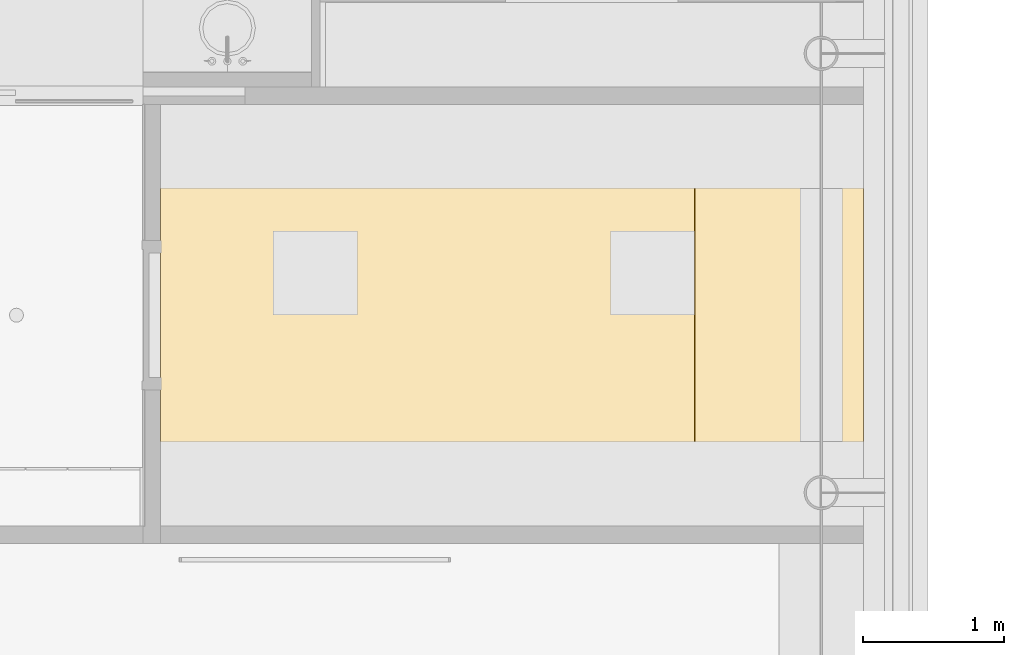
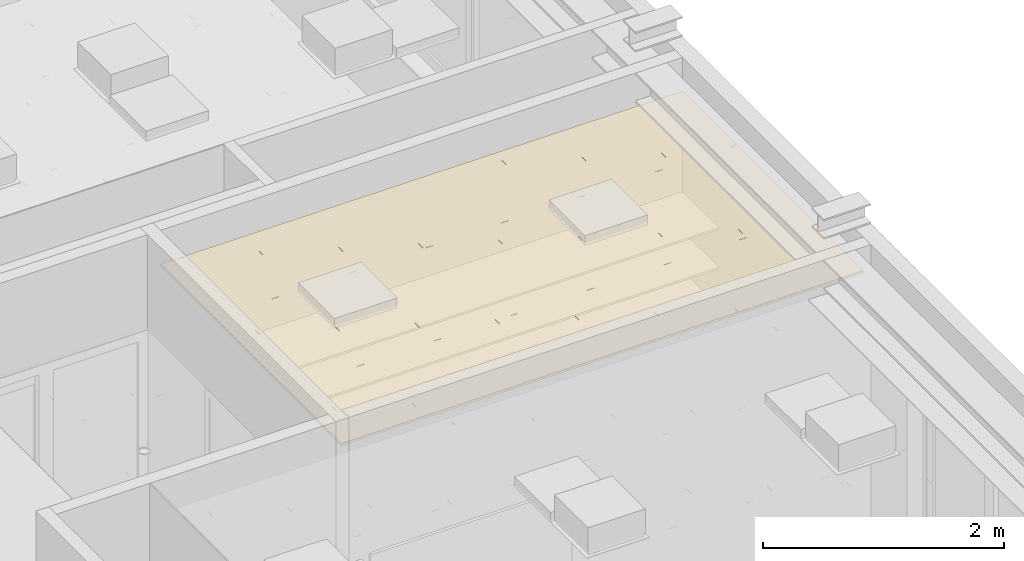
# One storey, part 155 of 347: 1 covering.
"""IFC2X3 building model written with IfcOpenShell, lengths in millimetres."""

from ifc_helpers import new_model, entity, si_unit, converted_unit, derived_unit, money_unit, direction, frame, origin_with_axes, place, context, subcontext, project, spatial, faceted_brep, source, transform, mapped, type_object, type_shapes, element, save


model = new_model("IFC2X3")

# Units and contexts
model_context = context("Model", 3, precision=0.01, world=origin_with_axes(), true_north=direction((0.0, 1.0)))
plan_context = context("Plan", 3, precision=0.01, world=origin_with_axes(), true_north=direction((0.0, 1.0)))
body_context = subcontext(model_context, "Body", "Model", "MODEL_VIEW")
ifc_project = project(units=[si_unit("LENGTHUNIT", "METRE", prefix="MILLI"), si_unit("AREAUNIT", "SQUARE_METRE"), si_unit("VOLUMEUNIT", "CUBIC_METRE"), converted_unit("PLANEANGLEUNIT", "DEGREE", entity("IfcPlaneAngleMeasure", 0.0174532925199), si_unit("PLANEANGLEUNIT", "RADIAN"), dimensions=[0, 0, 0, 0, 0, 0, 0]), money_unit("EUR"), converted_unit("TIMEUNIT", "Year", entity("IfcTimeMeasure", 31556926.0), si_unit("TIMEUNIT", "SECOND"), dimensions=[0, 0, 1, 0, 0, 0, 0]), si_unit("MASSUNIT", "GRAM", prefix="KILO"), si_unit("THERMODYNAMICTEMPERATUREUNIT", "DEGREE_CELSIUS"), si_unit("LUMINOUSINTENSITYUNIT", "LUMEN"), si_unit("ENERGYUNIT", "JOULE", prefix="MEGA"), derived_unit("THERMALCONDUCTANCEUNIT", [(si_unit("POWERUNIT", "WATT"), 1), (si_unit("LENGTHUNIT", "METRE"), -1), (si_unit("THERMODYNAMICTEMPERATUREUNIT", "KELVIN"), -1)]), derived_unit("SPECIFICHEATCAPACITYUNIT", [(si_unit("ENERGYUNIT", "JOULE"), 1), (si_unit("MASSUNIT", "GRAM", prefix="KILO"), -1), (si_unit("THERMODYNAMICTEMPERATUREUNIT", "KELVIN"), -1)]), derived_unit("MASSDENSITYUNIT", [(si_unit("MASSUNIT", "GRAM", prefix="KILO"), 1), (si_unit("VOLUMEUNIT", "CUBIC_METRE"), -1)])], contexts=[model_context, plan_context])

# Site, building, storey
site_placement = place(None, origin_with_axes())
site = spatial("IfcSite", under=ifc_project, at=site_placement, Name="Site", CompositionType="ELEMENT")
building_placement = place(site_placement, origin_with_axes())
building = spatial("IfcBuilding", under=site, at=building_placement, Name="Naam gebouw", CompositionType="ELEMENT")
storey_placement = place(building_placement, origin_with_axes())
storey = spatial("IfcBuildingStorey", under=building, at=storey_placement, Name="begane grond", CompositionType="ELEMENT", Elevation=0.0)

# Covering
covering_type = type_object("IfcCoveringType", Name="Ceiling Editor INT_v2.01", PredefinedType="CEILING")
shared_shape = source(origin_with_axes(), body_context, "Body", "Brep", [
    faceted_brep([(-0.100000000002, 0.0, 20.0), (-0.100000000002, 899.9, 20.0), (-599.9, 899.9, 20.0), (-599.9, 0.0, 20.0), (-0.100000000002, 0.0, 0.0), (-0.100000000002, 899.9, 0.0), (-599.9, 899.9, 0.0), (-599.9, 0.0, 0.0)], [[[0, 1, 2, 3]], [[4, 5, 1, 0]], [[2, 1, 5, 6]], [[3, 2, 6, 7]], [[3, 7, 4, 0]], [[7, 6, 5, 4]]]),
    faceted_brep([(-599.9, 900.1, 20.0), (-599.9, 2099.9, 20.0), (-599.9, 2099.9, 0.0), (-599.9, 900.1, 0.0), (-0.100000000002, 900.1, 20.0), (-0.100000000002, 2099.9, 20.0), (-0.100000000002, 2099.9, 0.0), (-0.100000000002, 900.1, 0.0)], [[[0, 1, 2, 3]], [[4, 5, 1, 0]], [[1, 5, 6, 2]], [[2, 6, 7, 3]], [[4, 0, 3, 7]], [[5, 4, 7, 6]]]),
    faceted_brep([(-599.9, 3000.0, 0.0), (-599.9, 2100.1, 0.0), (-599.9, 2100.1, 20.0), (-599.9, 3000.0, 20.0), (-0.100000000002, 3000.0, 0.0), (-0.100000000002, 2100.1, 0.0), (-0.100000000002, 2100.1, 20.0), (-0.100000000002, 3000.0, 20.0)], [[[0, 1, 2, 3]], [[4, 5, 1, 0]], [[6, 2, 1, 5]], [[3, 2, 6, 7]], [[3, 7, 4, 0]], [[7, 6, 5, 4]]]),
    faceted_brep([(-600.1, 0.0, 20.0), (-600.1, 899.9, 20.0), (-1199.9, 899.9, 20.0), (-1199.9, 0.0, 20.0), (-600.1, 0.0, 0.0), (-600.1, 899.9, 0.0), (-1199.9, 899.9, 0.0), (-1199.9, 0.0, 0.0)], [[[0, 1, 2, 3]], [[4, 5, 1, 0]], [[2, 1, 5, 6]], [[3, 2, 6, 7]], [[3, 7, 4, 0]], [[7, 6, 5, 4]]]),
    faceted_brep([(-1199.9, 900.1, 20.0), (-1199.9, 2099.9, 20.0), (-1199.9, 2099.9, 0.0), (-1199.9, 900.1, 0.0), (-600.1, 900.1, 20.0), (-600.1, 2099.9, 20.0), (-600.1, 2099.9, 0.0), (-600.1, 900.1, 0.0)], [[[0, 1, 2, 3]], [[4, 5, 1, 0]], [[1, 5, 6, 2]], [[2, 6, 7, 3]], [[4, 0, 3, 7]], [[5, 4, 7, 6]]]),
    faceted_brep([(-1199.9, 3000.0, 0.0), (-1199.9, 2100.1, 0.0), (-1199.9, 2100.1, 20.0), (-1199.9, 3000.0, 20.0), (-600.1, 3000.0, 0.0), (-600.1, 2100.1, 0.0), (-600.1, 2100.1, 20.0), (-600.1, 3000.0, 20.0)], [[[0, 1, 2, 3]], [[4, 5, 1, 0]], [[6, 2, 1, 5]], [[3, 2, 6, 7]], [[3, 7, 4, 0]], [[7, 6, 5, 4]]]),
    faceted_brep([(-1249.99999795, 0.0, 20.0), (-1200.1, 0.0, 20.0), (-1200.1, 899.9, 20.0), (-1799.9, 899.9, 20.0), (-1799.9, 0.0, 20.0), (-1249.99999795, 0.0, 0.0), (-1200.1, 0.0, 0.0), (-1200.1, 899.9, 0.0), (-1799.9, 899.9, 0.0), (-1799.9, 0.0, 0.0)], [[[0, 1, 2, 3, 4]], [[0, 5, 6, 1]], [[6, 7, 2, 1]], [[3, 2, 7, 8]], [[4, 3, 8, 9]], [[4, 9, 5, 0]], [[5, 9, 8, 7, 6]]]),
    faceted_brep([(-1799.9, 900.1, 20.0), (-1799.9, 2099.9, 20.0), (-1799.9, 2099.9, 0.0), (-1799.9, 900.1, 0.0), (-1200.1, 900.1, 20.0), (-1200.1, 2099.9, 20.0), (-1200.1, 2099.9, 0.0), (-1200.1, 900.1, 0.0)], [[[0, 1, 2, 3]], [[4, 5, 1, 0]], [[1, 5, 6, 2]], [[2, 6, 7, 3]], [[4, 0, 3, 7]], [[5, 4, 7, 6]]]),
    faceted_brep([(-1799.9, 3000.0, 0.0), (-1799.9, 2100.1, 0.0), (-1799.9, 2100.1, 20.0), (-1799.9, 3000.0, 20.0), (-1249.99999795, 3000.0, 0.0), (-1200.1, 3000.0, 0.0), (-1200.1, 2100.1, 0.0), (-1200.1, 2100.1, 20.0), (-1249.99999795, 3000.0, 20.0), (-1200.1, 3000.0, 20.0)], [[[0, 1, 2, 3]], [[4, 5, 6, 1, 0]], [[7, 2, 1, 6]], [[8, 3, 2, 7, 9]], [[3, 8, 4, 0]], [[9, 5, 4, 8]], [[9, 7, 6, 5]]]),
    faceted_brep([(-1800.1, 0.0, 20.0), (-1800.1, 899.9, 20.0), (-2399.9, 899.9, 20.0), (-2399.9, 0.0, 20.0), (-1800.1, 0.0, 0.0), (-1800.1, 899.9, 0.0), (-2399.9, 899.9, 0.0), (-2399.9, 0.0, 0.0)], [[[0, 1, 2, 3]], [[4, 5, 1, 0]], [[2, 1, 5, 6]], [[3, 2, 6, 7]], [[3, 7, 4, 0]], [[7, 6, 5, 4]]]),
    faceted_brep([(-2399.9, 900.1, 20.0), (-2399.9, 2099.9, 20.0), (-2399.9, 2099.9, 0.0), (-2399.9, 900.1, 0.0), (-1800.1, 900.1, 20.0), (-1800.1, 2099.9, 20.0), (-1800.1, 2099.9, 0.0), (-1800.1, 900.1, 0.0)], [[[0, 1, 2, 3]], [[4, 5, 1, 0]], [[1, 5, 6, 2]], [[2, 6, 7, 3]], [[4, 0, 3, 7]], [[5, 4, 7, 6]]]),
    faceted_brep([(-2399.9, 3000.0, 0.0), (-2399.9, 2100.1, 0.0), (-2399.9, 2100.1, 20.0), (-2399.9, 3000.0, 20.0), (-1800.1, 3000.0, 0.0), (-1800.1, 2100.1, 0.0), (-1800.1, 2100.1, 20.0), (-1800.1, 3000.0, 20.0)], [[[0, 1, 2, 3]], [[4, 5, 1, 0]], [[6, 2, 1, 5]], [[3, 2, 6, 7]], [[3, 7, 4, 0]], [[7, 6, 5, 4]]]),
    faceted_brep([(-2499.9999959, 0.0, 20.0), (-2400.1, 0.0, 20.0), (-2400.1, 899.9, 20.0), (-2999.9, 899.9, 20.0), (-2999.9, 0.0, 20.0), (-2499.9999959, 0.0, 0.0), (-2400.1, 0.0, 0.0), (-2400.1, 899.9, 0.0), (-2999.9, 899.9, 0.0), (-2999.9, 0.0, 0.0)], [[[0, 1, 2, 3, 4]], [[0, 5, 6, 1]], [[6, 7, 2, 1]], [[3, 2, 7, 8]], [[4, 3, 8, 9]], [[4, 9, 5, 0]], [[5, 9, 8, 7, 6]]]),
    faceted_brep([(-2999.9, 900.1, 20.0), (-2999.9, 2099.9, 20.0), (-2999.9, 2099.9, 0.0), (-2999.9, 900.1, 0.0), (-2400.1, 900.1, 20.0), (-2400.1, 2099.9, 20.0), (-2400.1, 2099.9, 0.0), (-2400.1, 900.1, 0.0)], [[[0, 1, 2, 3]], [[4, 5, 1, 0]], [[1, 5, 6, 2]], [[2, 6, 7, 3]], [[4, 0, 3, 7]], [[5, 4, 7, 6]]]),
    faceted_brep([(-2999.9, 3000.0, 0.0), (-2999.9, 2100.1, 0.0), (-2999.9, 2100.1, 20.0), (-2999.9, 3000.0, 20.0), (-2499.9999959, 3000.0, 0.0), (-2400.1, 3000.0, 0.0), (-2400.1, 2100.1, 0.0), (-2400.1, 2100.1, 20.0), (-2499.9999959, 3000.0, 20.0), (-2400.1, 3000.0, 20.0)], [[[0, 1, 2, 3]], [[4, 5, 6, 1, 0]], [[7, 2, 1, 6]], [[8, 3, 2, 7, 9]], [[3, 8, 4, 0]], [[9, 5, 4, 8]], [[9, 7, 6, 5]]]),
    faceted_brep([(-3000.1, 0.0, 20.0), (-3000.1, 899.9, 20.0), (-3599.9, 899.9, 20.0), (-3599.9, 0.0, 20.0), (-3000.1, 0.0, 0.0), (-3000.1, 899.9, 0.0), (-3599.9, 899.9, 0.0), (-3599.9, 0.0, 0.0)], [[[0, 1, 2, 3]], [[4, 5, 1, 0]], [[2, 1, 5, 6]], [[3, 2, 6, 7]], [[3, 7, 4, 0]], [[7, 6, 5, 4]]]),
    faceted_brep([(-3599.9, 900.1, 20.0), (-3599.9, 2099.9, 20.0), (-3599.9, 2099.9, 0.0), (-3599.9, 900.1, 0.0), (-3000.1, 900.1, 20.0), (-3000.1, 2099.9, 20.0), (-3000.1, 2099.9, 0.0), (-3000.1, 900.1, 0.0)], [[[0, 1, 2, 3]], [[4, 5, 1, 0]], [[1, 5, 6, 2]], [[2, 6, 7, 3]], [[4, 0, 3, 7]], [[5, 4, 7, 6]]]),
    faceted_brep([(-3599.9, 3000.0, 0.0), (-3599.9, 2100.1, 0.0), (-3599.9, 2100.1, 20.0), (-3599.9, 3000.0, 20.0), (-3000.1, 3000.0, 0.0), (-3000.1, 2100.1, 0.0), (-3000.1, 2100.1, 20.0), (-3000.1, 3000.0, 20.0)], [[[0, 1, 2, 3]], [[4, 5, 1, 0]], [[6, 2, 1, 5]], [[3, 2, 6, 7]], [[3, 7, 4, 0]], [[7, 6, 5, 4]]]),
    faceted_brep([(-3749.99999385, 0.0, 20.0), (-3600.1, 0.0, 20.0), (-3600.1, 899.9, 20.0), (-4199.9, 899.9, 20.0), (-4199.9, 0.0, 20.0), (-3749.99999385, 0.0, 0.0), (-3600.1, 0.0, 0.0), (-3600.1, 899.9, 0.0), (-4199.9, 899.9, 0.0), (-4199.9, 0.0, 0.0)], [[[0, 1, 2, 3, 4]], [[0, 5, 6, 1]], [[6, 7, 2, 1]], [[3, 2, 7, 8]], [[4, 3, 8, 9]], [[4, 9, 5, 0]], [[5, 9, 8, 7, 6]]]),
    faceted_brep([(-4199.9, 900.1, 20.0), (-4199.9, 2099.9, 20.0), (-4199.9, 2099.9, 0.0), (-4199.9, 900.1, 0.0), (-3600.1, 900.1, 20.0), (-3600.1, 2099.9, 20.0), (-3600.1, 2099.9, 0.0), (-3600.1, 900.1, 0.0)], [[[0, 1, 2, 3]], [[4, 5, 1, 0]], [[1, 5, 6, 2]], [[2, 6, 7, 3]], [[4, 0, 3, 7]], [[5, 4, 7, 6]]]),
    faceted_brep([(-4199.9, 3000.0, 0.0), (-4199.9, 2100.1, 0.0), (-4199.9, 2100.1, 20.0), (-4199.9, 3000.0, 20.0), (-3749.99999385, 3000.0, 0.0), (-3600.1, 3000.0, 0.0), (-3600.1, 2100.1, 0.0), (-3600.1, 2100.1, 20.0), (-3749.99999385, 3000.0, 20.0), (-3600.1, 3000.0, 20.0)], [[[0, 1, 2, 3]], [[4, 5, 6, 1, 0]], [[7, 2, 1, 6]], [[8, 3, 2, 7, 9]], [[3, 8, 4, 0]], [[9, 5, 4, 8]], [[9, 7, 6, 5]]]),
    faceted_brep([(-4200.1, 0.0, 20.0), (-4200.1, 899.9, 20.0), (-4799.9, 899.9, 20.0), (-4799.9, 0.0, 20.0), (-4200.1, 0.0, 0.0), (-4200.1, 899.9, 0.0), (-4799.9, 899.9, 0.0), (-4799.9, 0.0, 0.0)], [[[0, 1, 2, 3]], [[4, 5, 1, 0]], [[2, 1, 5, 6]], [[3, 2, 6, 7]], [[3, 7, 4, 0]], [[7, 6, 5, 4]]]),
    faceted_brep([(-4799.9, 900.1, 20.0), (-4799.9, 2099.9, 20.0), (-4799.9, 2099.9, 0.0), (-4799.9, 900.1, 0.0), (-4200.1, 900.1, 20.0), (-4200.1, 2099.9, 20.0), (-4200.1, 2099.9, 0.0), (-4200.1, 900.1, 0.0)], [[[0, 1, 2, 3]], [[4, 5, 1, 0]], [[1, 5, 6, 2]], [[2, 6, 7, 3]], [[4, 0, 3, 7]], [[5, 4, 7, 6]]]),
    faceted_brep([(-4799.9, 3000.0, 0.0), (-4799.9, 2100.1, 0.0), (-4799.9, 2100.1, 20.0), (-4799.9, 3000.0, 20.0), (-4200.1, 3000.0, 0.0), (-4200.1, 2100.1, 0.0), (-4200.1, 2100.1, 20.0), (-4200.1, 3000.0, 20.0)], [[[0, 1, 2, 3]], [[4, 5, 1, 0]], [[6, 2, 1, 5]], [[3, 2, 6, 7]], [[3, 7, 4, 0]], [[7, 6, 5, 4]]]),
    faceted_brep([(-4999.9999918, 750.0, 20.0), (-4999.9999918, 0.0, 20.0), (-4800.1, 0.0, 20.0), (-4800.1, 899.9, 20.0), (-4999.9999918, 899.9, 20.0), (-4999.9999918, 750.0, 0.0), (-4999.9999918, 0.0, 0.0), (-4800.1, 0.0, 0.0), (-4800.1, 899.9, 0.0), (-4999.9999918, 899.9, 0.0)], [[[0, 1, 2, 3, 4]], [[0, 5, 6, 1]], [[1, 6, 7, 2]], [[7, 8, 3, 2]], [[4, 3, 8, 9]], [[4, 9, 5, 0]], [[6, 5, 9, 8, 7]]]),
    faceted_brep([(-4999.9999918, 1500.0, 20.0), (-4999.9999918, 900.1, 20.0), (-4800.1, 900.1, 20.0), (-4800.1, 2099.9, 20.0), (-4999.9999918, 2099.9, 20.0), (-4999.9999918, 1500.0, 0.0), (-4999.9999918, 900.1, 0.0), (-4800.1, 900.1, 0.0), (-4800.1, 2099.9, 0.0), (-4999.9999918, 2099.9, 0.0)], [[[0, 1, 2, 3, 4]], [[0, 5, 6, 1]], [[6, 7, 2, 1]], [[3, 2, 7, 8]], [[4, 3, 8, 9]], [[4, 9, 5, 0]], [[5, 9, 8, 7, 6]]]),
    faceted_brep([(-4999.9999918, 2250.0, 20.0), (-4999.9999918, 2100.1, 20.0), (-4800.1, 2100.1, 20.0), (-4800.1, 3000.0, 20.0), (-4999.9999918, 3000.0, 20.0), (-4999.9999918, 2250.0, 0.0), (-4999.9999918, 2100.1, 0.0), (-4800.1, 2100.1, 0.0), (-4800.1, 3000.0, 0.0), (-4999.9999918, 3000.0, 0.0)], [[[0, 1, 2, 3, 4]], [[0, 5, 6, 1]], [[6, 7, 2, 1]], [[3, 2, 7, 8]], [[3, 8, 9, 4]], [[4, 9, 5, 0]], [[5, 9, 8, 7, 6]]]),
    faceted_brep([(-4999.9999918, 0.0, 0.0), (-4999.9999918, 887.5, 0.0), (-4999.9999918, 912.5, 0.0), (-4999.9999918, 2087.5, 0.0), (-4999.9999918, 2112.5, 0.0), (-4999.9999918, 3000.0, 0.0), (-4999.9999918, 3000.0, -5.0), (-4999.9999918, 2112.5, -5.0), (-4999.9999918, 2087.5, -5.0), (-4999.9999918, 912.5, -5.0), (-4999.9999918, 887.5, -5.0), (-4999.9999918, 0.0, -5.0), (-2987.5, 0.0, 0.0), (-2412.5, 0.0, 0.0), (-2387.5, 0.0, 0.0), (-1812.5, 0.0, 0.0), (-1787.5, 0.0, 0.0), (-1212.5, 0.0, 0.0), (-1187.5, 0.0, 0.0), (-612.5, 0.0, 0.0), (-587.5, 0.0, 0.0), (-12.5, 0.0, 0.0), (0.0, 0.0, 0.0), (0.0, 750.0, 0.0), (0.0, 1500.0, 0.0), (0.0, 2250.0, 0.0), (0.0, 3000.0, 0.0), (-12.5, 3000.0, 0.0), (-587.5, 3000.0, 0.0), (-612.5, 3000.0, 0.0), (-1187.5, 3000.0, 0.0), (-1212.5, 3000.0, 0.0), (-1787.5, 3000.0, 0.0), (-1812.5, 3000.0, 0.0), (-2387.5, 3000.0, 0.0), (-2412.5, 3000.0, 0.0), (-2987.5, 3000.0, 0.0), (-3012.5, 3000.0, 0.0), (-3587.5, 3000.0, 0.0), (-3612.5, 3000.0, 0.0), (-4187.5, 3000.0, 0.0), (-4212.5, 3000.0, 0.0), (-4787.5, 3000.0, 0.0), (-4812.5, 3000.0, 0.0), (-4812.5, 0.0, 0.0), (-4787.5, 0.0, 0.0), (-4212.5, 0.0, 0.0), (-4187.5, 0.0, 0.0), (-3612.5, 0.0, 0.0), (-3587.5, 0.0, 0.0), (-3012.5, 0.0, 0.0), (-25.0, 2087.5, 0.0), (-25.0, 912.5, 0.0), (-587.5, 912.5, 0.0), (-587.5, 2087.5, 0.0), (-612.5, 2087.5, 0.0), (-612.5, 912.5, 0.0), (-1187.5, 912.5, 0.0), (-1187.5, 2087.5, 0.0), (-1212.5, 2087.5, 0.0), (-1212.5, 912.5, 0.0), (-1787.5, 912.5, 0.0), (-1787.5, 2087.5, 0.0), (-1812.5, 2087.5, 0.0), (-1812.5, 912.5, 0.0), (-2387.5, 912.5, 0.0), (-2387.5, 2087.5, 0.0), (-2412.5, 2087.5, 0.0), (-2412.5, 912.5, 0.0), (-2987.5, 912.5, 0.0), (-2987.5, 2087.5, 0.0), (-3012.5, 2087.5, 0.0), (-3012.5, 912.5, 0.0), (-3587.5, 912.5, 0.0), (-3587.5, 2087.5, 0.0), (-3612.5, 2087.5, 0.0), (-3612.5, 912.5, 0.0), (-4187.5, 912.5, 0.0), (-4187.5, 2087.5, 0.0), (-4212.5, 2087.5, 0.0), (-4212.5, 912.5, 0.0), (-4787.5, 912.5, 0.0), (-4787.5, 2087.5, 0.0), (-25.0, 887.5, 0.0), (-25.0, 25.0, 0.0), (-587.5, 25.0, 0.0), (-587.5, 887.5, 0.0), (-1187.5, 25.0, 0.0), (-1187.5, 887.5, 0.0), (-612.5, 887.5, 0.0), (-612.5, 25.0, 0.0), (-587.5, 2975.0, 0.0), (-25.0, 2975.0, 0.0), (-25.0, 2112.5, 0.0), (-587.5, 2112.5, 0.0), (-1187.5, 2975.0, 0.0), (-612.5, 2975.0, 0.0), (-612.5, 2112.5, 0.0), (-1187.5, 2112.5, 0.0), (-1787.5, 2975.0, 0.0), (-1212.5, 2975.0, 0.0), (-1212.5, 2112.5, 0.0), (-1787.5, 2112.5, 0.0), (-2387.5, 2975.0, 0.0), (-1812.5, 2975.0, 0.0), (-1812.5, 2112.5, 0.0), (-2387.5, 2112.5, 0.0), (-2987.5, 2975.0, 0.0), (-2412.5, 2975.0, 0.0), (-2412.5, 2112.5, 0.0), (-2987.5, 2112.5, 0.0), (-3587.5, 2975.0, 0.0), (-3012.5, 2975.0, 0.0), (-3012.5, 2112.5, 0.0), (-3587.5, 2112.5, 0.0), (-4187.5, 2975.0, 0.0), (-3612.5, 2975.0, 0.0), (-3612.5, 2112.5, 0.0), (-4187.5, 2112.5, 0.0), (-4787.5, 2975.0, 0.0), (-4212.5, 2975.0, 0.0), (-4212.5, 2112.5, 0.0), (-4787.5, 2112.5, 0.0), (-4974.9999918, 2112.5, 0.0), (-4974.9999918, 2975.0, 0.0), (-4812.5, 2975.0, 0.0), (-4812.5, 2112.5, 0.0), (-4974.9999918, 912.5, 0.0), (-4974.9999918, 2087.5, 0.0), (-4812.5, 2087.5, 0.0), (-4812.5, 912.5, 0.0), (-4787.5, 25.0, 0.0), (-4787.5, 887.5, 0.0), (-4212.5, 887.5, 0.0), (-4212.5, 25.0, 0.0), (-4974.9999918, 25.0, 0.0), (-4974.9999918, 887.5, 0.0), (-4812.5, 887.5, 0.0), (-4812.5, 25.0, 0.0), (-3587.5, 25.0, 0.0), (-3587.5, 887.5, 0.0), (-3012.5, 887.5, 0.0), (-3012.5, 25.0, 0.0), (-3612.5, 25.0, 0.0), (-4187.5, 25.0, 0.0), (-4187.5, 887.5, 0.0), (-3612.5, 887.5, 0.0), (-1787.5, 25.0, 0.0), (-1787.5, 887.5, 0.0), (-1212.5, 887.5, 0.0), (-1212.5, 25.0, 0.0), (-2387.5, 25.0, 0.0), (-2387.5, 887.5, 0.0), (-1812.5, 887.5, 0.0), (-1812.5, 25.0, 0.0), (-2412.5, 25.0, 0.0), (-2987.5, 25.0, 0.0), (-2987.5, 887.5, 0.0), (-2412.5, 887.5, 0.0), (0.0, 3000.0, -5.0), (-12.5, 3000.0, -5.0), (-587.5, 3000.0, -5.0), (-612.5, 3000.0, -5.0), (-1187.5, 3000.0, -5.0), (-1212.5, 3000.0, -5.0), (-1787.5, 3000.0, -5.0), (-1812.5, 3000.0, -5.0), (-2387.5, 3000.0, -5.0), (-2412.5, 3000.0, -5.0), (-2987.5, 3000.0, -5.0), (-3012.5, 3000.0, -5.0), (-3587.5, 3000.0, -5.0), (-3612.5, 3000.0, -5.0), (-4187.5, 3000.0, -5.0), (-4212.5, 3000.0, -5.0), (-4787.5, 3000.0, -5.0), (-4812.5, 3000.0, -5.0), (-2412.5, 0.0, -5.0), (-2987.5, 0.0, -5.0), (-3012.5, 0.0, -5.0), (-3587.5, 0.0, -5.0), (-3612.5, 0.0, -5.0), (-4187.5, 0.0, -5.0), (-4212.5, 0.0, -5.0), (-4787.5, 0.0, -5.0), (-4812.5, 0.0, -5.0), (0.0, 2250.0, -5.0), (0.0, 1500.0, -5.0), (0.0, 750.0, -5.0), (0.0, 0.0, -5.0), (-12.5, 0.0, -5.0), (-587.5, 0.0, -5.0), (-612.5, 0.0, -5.0), (-1187.5, 0.0, -5.0), (-1212.5, 0.0, -5.0), (-1787.5, 0.0, -5.0), (-1812.5, 0.0, -5.0), (-2387.5, 0.0, -5.0), (-25.0, 912.5, -5.0), (-25.0, 2087.5, -5.0), (-587.5, 2087.5, -5.0), (-587.5, 912.5, -5.0), (-1187.5, 912.5, -5.0), (-612.5, 912.5, -5.0), (-612.5, 2087.5, -5.0), (-1187.5, 2087.5, -5.0), (-1787.5, 912.5, -5.0), (-1212.5, 912.5, -5.0), (-1212.5, 2087.5, -5.0), (-1787.5, 2087.5, -5.0), (-2387.5, 912.5, -5.0), (-1812.5, 912.5, -5.0), (-1812.5, 2087.5, -5.0), (-2387.5, 2087.5, -5.0), (-2987.5, 912.5, -5.0), (-2412.5, 912.5, -5.0), (-2412.5, 2087.5, -5.0), (-2987.5, 2087.5, -5.0), (-3587.5, 912.5, -5.0), (-3012.5, 912.5, -5.0), (-3012.5, 2087.5, -5.0), (-3587.5, 2087.5, -5.0), (-4187.5, 912.5, -5.0), (-3612.5, 912.5, -5.0), (-3612.5, 2087.5, -5.0), (-4187.5, 2087.5, -5.0), (-4787.5, 912.5, -5.0), (-4212.5, 912.5, -5.0), (-4212.5, 2087.5, -5.0), (-4787.5, 2087.5, -5.0), (-25.0, 25.0, -5.0), (-25.0, 887.5, -5.0), (-587.5, 887.5, -5.0), (-587.5, 25.0, -5.0), (-1187.5, 25.0, -5.0), (-612.5, 25.0, -5.0), (-612.5, 887.5, -5.0), (-1187.5, 887.5, -5.0), (-587.5, 2975.0, -5.0), (-587.5, 2112.5, -5.0), (-25.0, 2112.5, -5.0), (-25.0, 2975.0, -5.0), (-1187.5, 2975.0, -5.0), (-1187.5, 2112.5, -5.0), (-612.5, 2112.5, -5.0), (-612.5, 2975.0, -5.0), (-1787.5, 2975.0, -5.0), (-1787.5, 2112.5, -5.0), (-1212.5, 2112.5, -5.0), (-1212.5, 2975.0, -5.0), (-2387.5, 2975.0, -5.0), (-2387.5, 2112.5, -5.0), (-1812.5, 2112.5, -5.0), (-1812.5, 2975.0, -5.0), (-2987.5, 2975.0, -5.0), (-2987.5, 2112.5, -5.0), (-2412.5, 2112.5, -5.0), (-2412.5, 2975.0, -5.0), (-3587.5, 2975.0, -5.0), (-3587.5, 2112.5, -5.0), (-3012.5, 2112.5, -5.0), (-3012.5, 2975.0, -5.0), (-4187.5, 2975.0, -5.0), (-4187.5, 2112.5, -5.0), (-3612.5, 2112.5, -5.0), (-3612.5, 2975.0, -5.0), (-4787.5, 2975.0, -5.0), (-4787.5, 2112.5, -5.0), (-4212.5, 2112.5, -5.0), (-4212.5, 2975.0, -5.0), (-4974.9999918, 2975.0, -5.0), (-4974.9999918, 2112.5, -5.0), (-4812.5, 2112.5, -5.0), (-4812.5, 2975.0, -5.0), (-4974.9999918, 2087.5, -5.0), (-4974.9999918, 912.5, -5.0), (-4812.5, 912.5, -5.0), (-4812.5, 2087.5, -5.0), (-4787.5, 25.0, -5.0), (-4212.5, 25.0, -5.0), (-4212.5, 887.5, -5.0), (-4787.5, 887.5, -5.0), (-4974.9999918, 25.0, -5.0), (-4812.5, 25.0, -5.0), (-4812.5, 887.5, -5.0), (-4974.9999918, 887.5, -5.0), (-3587.5, 25.0, -5.0), (-3012.5, 25.0, -5.0), (-3012.5, 887.5, -5.0), (-3587.5, 887.5, -5.0), (-4187.5, 25.0, -5.0), (-3612.5, 25.0, -5.0), (-3612.5, 887.5, -5.0), (-4187.5, 887.5, -5.0), (-1787.5, 25.0, -5.0), (-1212.5, 25.0, -5.0), (-1212.5, 887.5, -5.0), (-1787.5, 887.5, -5.0), (-2387.5, 25.0, -5.0), (-1812.5, 25.0, -5.0), (-1812.5, 887.5, -5.0), (-2387.5, 887.5, -5.0), (-2987.5, 25.0, -5.0), (-2412.5, 25.0, -5.0), (-2412.5, 887.5, -5.0), (-2987.5, 887.5, -5.0)], [[[0, 1, 2, 3, 4, 5, 6, 7, 8, 9, 10, 11]], [[12, 13, 14, 15, 16, 17, 18, 19, 20, 21, 22, 23, 24, 25, 26, 27, 28, 29, 30, 31, 32, 33, 34, 35, 36, 37, 38, 39, 40, 41, 42, 43, 5, 4, 3, 2, 1, 0, 44, 45, 46, 47, 48, 49, 50], [51, 52, 53, 54], [55, 56, 57, 58], [59, 60, 61, 62], [63, 64, 65, 66], [67, 68, 69, 70], [71, 72, 73, 74], [75, 76, 77, 78], [79, 80, 81, 82], [83, 84, 85, 86], [87, 88, 89, 90], [91, 92, 93, 94], [95, 96, 97, 98], [99, 100, 101, 102], [103, 104, 105, 106], [107, 108, 109, 110], [111, 112, 113, 114], [115, 116, 117, 118], [119, 120, 121, 122], [123, 124, 125, 126], [127, 128, 129, 130], [131, 132, 133, 134], [135, 136, 137, 138], [139, 140, 141, 142], [143, 144, 145, 146], [147, 148, 149, 150], [151, 152, 153, 154], [155, 156, 157, 158]], [[5, 43, 42, 41, 40, 39, 38, 37, 36, 35, 34, 33, 32, 31, 30, 29, 28, 27, 26, 159, 160, 161, 162, 163, 164, 165, 166, 167, 168, 169, 170, 171, 172, 173, 174, 175, 176, 6]], [[177, 178, 179, 180, 181, 182, 183, 184, 185, 11, 10, 9, 8, 7, 6, 176, 175, 174, 173, 172, 171, 170, 169, 168, 167, 166, 165, 164, 163, 162, 161, 160, 159, 186, 187, 188, 189, 190, 191, 192, 193, 194, 195, 196, 197], [198, 199, 200, 201], [202, 203, 204, 205], [206, 207, 208, 209], [210, 211, 212, 213], [214, 215, 216, 217], [218, 219, 220, 221], [222, 223, 224, 225], [226, 227, 228, 229], [230, 231, 232, 233], [234, 235, 236, 237], [238, 239, 240, 241], [242, 243, 244, 245], [246, 247, 248, 249], [250, 251, 252, 253], [254, 255, 256, 257], [258, 259, 260, 261], [262, 263, 264, 265], [266, 267, 268, 269], [270, 271, 272, 273], [274, 275, 276, 277], [278, 279, 280, 281], [282, 283, 284, 285], [286, 287, 288, 289], [290, 291, 292, 293], [294, 295, 296, 297], [298, 299, 300, 301], [302, 303, 304, 305]], [[177, 197, 196, 195, 194, 193, 192, 191, 190, 189, 22, 21, 20, 19, 18, 17, 16, 15, 14, 13, 12, 50, 49, 48, 47, 46, 45, 44, 0, 11, 185, 184, 183, 182, 181, 180, 179, 178]], [[188, 23, 22, 189]], [[187, 24, 23, 188]], [[186, 25, 24, 187]], [[159, 26, 25, 186]], [[199, 198, 52, 51]], [[198, 201, 53, 52]], [[53, 201, 200, 54]], [[51, 54, 200, 199]], [[203, 56, 55, 204]], [[56, 203, 202, 57]], [[57, 202, 205, 58]], [[204, 55, 58, 205]], [[207, 60, 59, 208]], [[60, 207, 206, 61]], [[61, 206, 209, 62]], [[208, 59, 62, 209]], [[211, 64, 63, 212]], [[64, 211, 210, 65]], [[65, 210, 213, 66]], [[212, 63, 66, 213]], [[215, 68, 67, 216]], [[68, 215, 214, 69]], [[69, 214, 217, 70]], [[216, 67, 70, 217]], [[219, 72, 71, 220]], [[72, 219, 218, 73]], [[73, 218, 221, 74]], [[220, 71, 74, 221]], [[223, 76, 75, 224]], [[76, 223, 222, 77]], [[77, 222, 225, 78]], [[224, 75, 78, 225]], [[227, 80, 79, 228]], [[226, 81, 80, 227]], [[81, 226, 229, 82]], [[228, 79, 82, 229]], [[231, 230, 84, 83]], [[230, 233, 85, 84]], [[233, 232, 86, 85]], [[83, 86, 232, 231]], [[234, 237, 88, 87]], [[236, 89, 88, 237]], [[90, 89, 236, 235]], [[87, 90, 235, 234]], [[238, 241, 92, 91]], [[241, 240, 93, 92]], [[240, 239, 94, 93]], [[91, 94, 239, 238]], [[242, 245, 96, 95]], [[245, 244, 97, 96]], [[97, 244, 243, 98]], [[95, 98, 243, 242]], [[246, 249, 100, 99]], [[249, 248, 101, 100]], [[101, 248, 247, 102]], [[99, 102, 247, 246]], [[250, 253, 104, 103]], [[253, 252, 105, 104]], [[105, 252, 251, 106]], [[103, 106, 251, 250]], [[254, 257, 108, 107]], [[257, 256, 109, 108]], [[109, 256, 255, 110]], [[107, 110, 255, 254]], [[258, 261, 112, 111]], [[261, 260, 113, 112]], [[113, 260, 259, 114]], [[111, 114, 259, 258]], [[262, 265, 116, 115]], [[265, 264, 117, 116]], [[117, 264, 263, 118]], [[115, 118, 263, 262]], [[266, 269, 120, 119]], [[269, 268, 121, 120]], [[121, 268, 267, 122]], [[119, 122, 267, 266]], [[123, 271, 270, 124]], [[270, 273, 125, 124]], [[273, 272, 126, 125]], [[123, 126, 272, 271]], [[127, 275, 274, 128]], [[274, 277, 129, 128]], [[276, 130, 129, 277]], [[127, 130, 276, 275]], [[278, 281, 132, 131]], [[132, 281, 280, 133]], [[134, 133, 280, 279]], [[131, 134, 279, 278]], [[282, 285, 136, 135]], [[285, 284, 137, 136]], [[138, 137, 284, 283]], [[135, 138, 283, 282]], [[286, 289, 140, 139]], [[288, 141, 140, 289]], [[142, 141, 288, 287]], [[139, 142, 287, 286]], [[143, 291, 290, 144]], [[290, 293, 145, 144]], [[292, 146, 145, 293]], [[143, 146, 292, 291]], [[294, 297, 148, 147]], [[296, 149, 148, 297]], [[150, 149, 296, 295]], [[147, 150, 295, 294]], [[298, 301, 152, 151]], [[300, 153, 152, 301]], [[154, 153, 300, 299]], [[151, 154, 299, 298]], [[155, 303, 302, 156]], [[302, 305, 157, 156]], [[304, 158, 157, 305]], [[155, 158, 304, 303]]]),
])
type_shapes(covering_type, [shared_shape])
covering_placement = place(storey_placement, frame((55874.9999918, 35962.5, 3200.0), z_axis=(0.0, 0.0, 1.0), x_axis=(1.0, 0.0, 0.0)))
element("IfcCovering", 1, at=covering_placement, inside=storey, type_object=covering_type, Name="45 Plafondafwerkingen_77 garderobe", PredefinedType="CEILING", context=body_context, shape_type="MappedRepresentation", body=[
    mapped(shared_shape, transform((0.0, 0.0, 0.0))),
])

save(model, "model.ifc")
